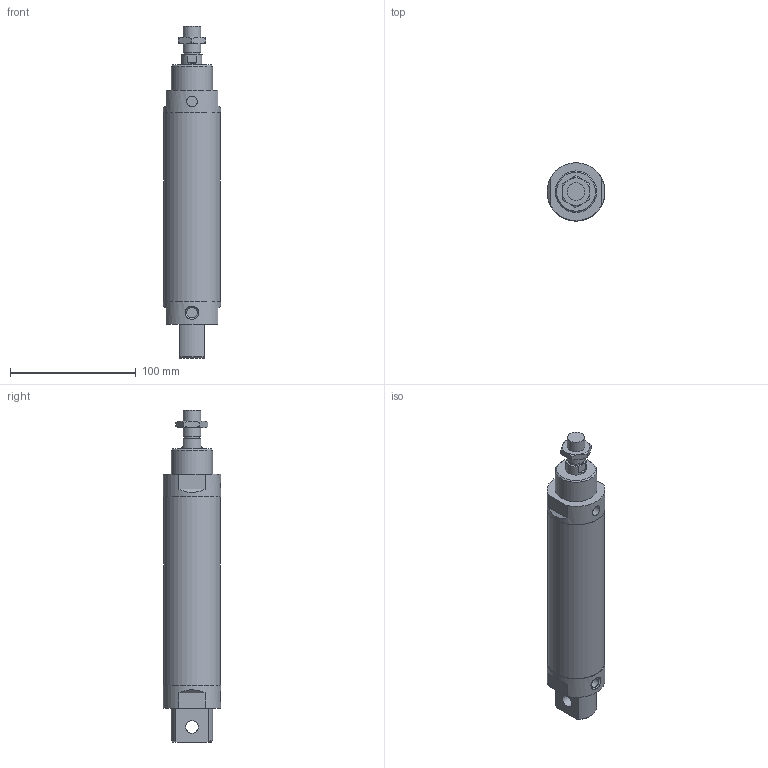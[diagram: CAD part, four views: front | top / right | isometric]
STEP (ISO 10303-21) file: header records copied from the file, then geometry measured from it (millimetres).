
FILE_DESCRIPTION((''),'2;1');
FILE_NAME('I:\3D電子目錄\氣缸\FDA\FDA\FDA\FDA40\FDA40x100.stp','2007-10-23T13:31:03',('66-2f-008'),(''),'Autodesk Inventor 11','Autodesk Inventor 11','');
FILE_SCHEMA(('AUTOMOTIVE_DESIGN { 1 0 10303 214 1 1 1 1 }'));
Length unit declared in the file: millimetre
Products named in the file (1): FDA40
Bounding box: 45.99 x 45.95 x 264 mm (x, y, z)
Volume: 334079.1 mm3; surface area: 37312.3 mm2
Topology: 1 solids, 1 shells, 62 faces, 144 edges, 95 vertices
Faces by surface type: plane 29, cone 15, cylinder 13, bspline 5
Full cylindrical faces by diameter (mm): 8.5 x2, 10 x1, 12 x1, 14 x2, 16 x1, 33 x1, 45 x1, 46 x2
Entity records: 1929 total; most frequent: CARTESIAN_POINT 638, DIRECTION 256, ORIENTED_EDGE 250, EDGE_CURVE 125, AXIS2_PLACEMENT_3D 106, VERTEX_POINT 88, EDGE_LOOP 87, FACE_OUTER_BOUND 62
